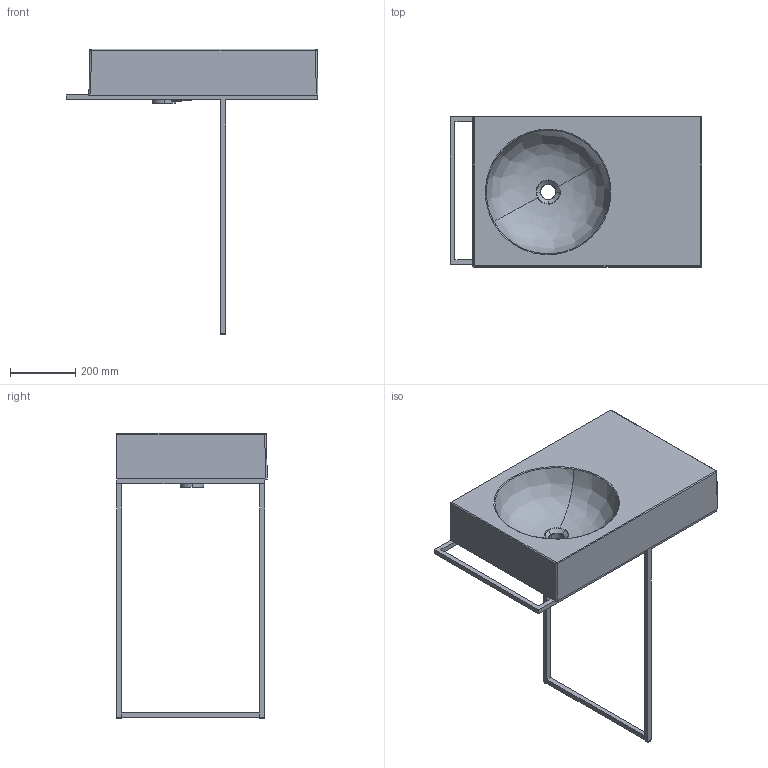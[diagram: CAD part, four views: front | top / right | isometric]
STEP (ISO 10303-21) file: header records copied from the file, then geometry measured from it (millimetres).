
FILE_DESCRIPTION(('CATIA V5 STEP Exchange'),'2;1');
FILE_NAME('C:\Users\167035\Downloads\7720\3D_7720 con lavabo.stp','2025-07-21T07:48:39+00:00',('none'),('none'),'CATIA Version 5 Release 19 SP 5 (IN-10)','CATIA V5 STEP AP214','none');
FILE_SCHEMA(('AUTOMOTIVE_DESIGN { 1 0 10303 214 1 1 1 1 }'));
Length unit declared in the file: millimetre
Products named in the file (1): Struttura art 7720
Bounding box: 770.15 x 460.19 x 873 mm (x, y, z)
Volume: 1047281 mm3; surface area: 1581399.7 mm2
Topology: 1 solids, 2 shells, 286 faces, 728 edges, 432 vertices
Faces by surface type: cylinder 101, bspline 77, plane 68, torus 34, sphere 6
Entity records: 14694 total; most frequent: CARTESIAN_POINT 8819, ORIENTED_EDGE 1403, DIRECTION 801, EDGE_CURVE 714, VERTEX_POINT 431, AXIS2_PLACEMENT_3D 372, EDGE_LOOP 303, ADVANCED_FACE 286
